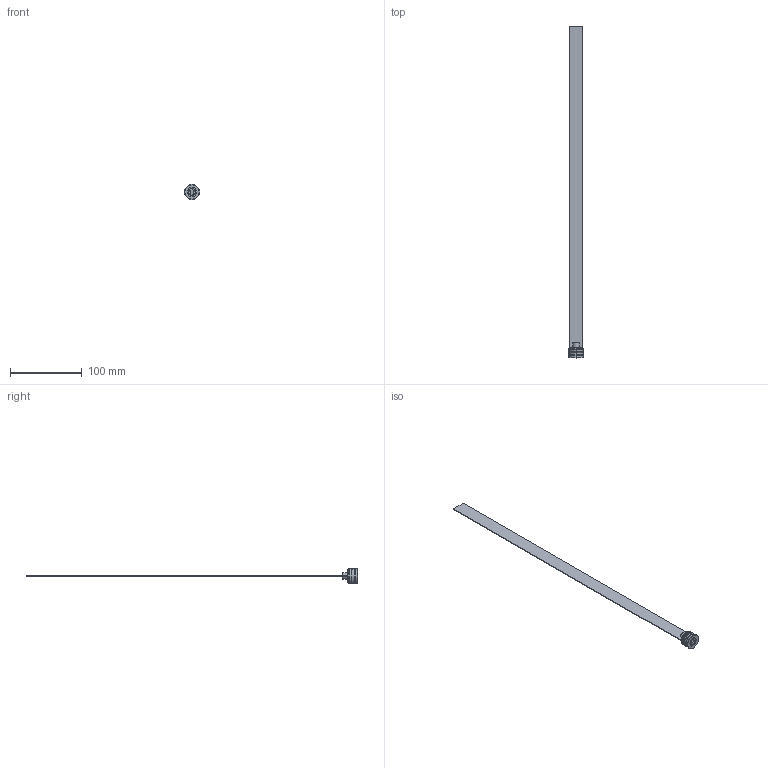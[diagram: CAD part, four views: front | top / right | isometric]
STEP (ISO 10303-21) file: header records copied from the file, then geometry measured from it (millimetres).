
FILE_DESCRIPTION (( 'STEP AP203' ), '1' );
FILE_NAME ('RL-20Fx450-19,5.STEP', '2015-12-02T15:18:10', ( 'Balzi' ), ( '' ), 'SwSTEP 2.0', 'SolidWorks 2015', '' );
FILE_SCHEMA (( 'CONFIG_CONTROL_DESIGN' ));
Length unit declared in the file: millimetre
Products named in the file (1): RL-20Fx450-19,5
Bounding box: 21.5 x 464 x 21.5 mm (x, y, z)
Volume: 13276.7 mm3; surface area: 20735.2 mm2
Topology: 1 solids, 1 shells, 75 faces, 177 edges, 109 vertices
Faces by surface type: plane 31, cone 19, cylinder 17, torus 8
Entity records: 2245 total; most frequent: CARTESIAN_POINT 412, DIRECTION 386, ORIENTED_EDGE 354, EDGE_CURVE 177, AXIS2_PLACEMENT_3D 147, VERTEX_POINT 109, VECTOR 92, LINE 92
